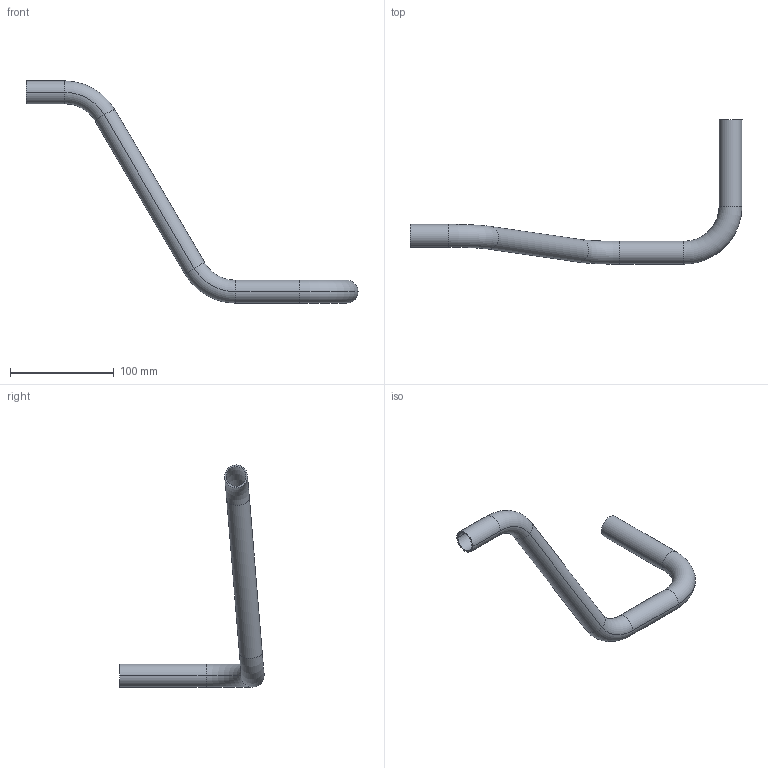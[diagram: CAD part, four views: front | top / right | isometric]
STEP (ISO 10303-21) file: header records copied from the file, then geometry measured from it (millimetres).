
FILE_DESCRIPTION(('CATIA V5 STEP Exchange','CAx-IF Rec.Pracs.--- Model Styling and Organization---1.2---2011-12-15'),'2;1');
FILE_NAME('c:\aplikace\smarteam\Temp\DO584476.step','2016-06-24T11:59:44+00:00',('none'),('none'),'CATIA Version 5 Release 21 SP 6 (IN-10)','CATIA V5 STEP AP214','none');
FILE_SCHEMA(('AUTOMOTIVE_DESIGN { 1 0 10303 214 1 1 1 1 }'));
Length unit declared in the file: millimetre
Products named in the file (1): DO584476, TRUBKA R1T2
Bounding box: 319.75 x 139 x 214 mm (x, y, z)
Volume: 50081.2 mm3; surface area: 66968.1 mm2
Topology: 1 solids, 1 shells, 30 faces, 64 edges, 36 vertices
Faces by surface type: cylinder 16, torus 12, plane 2
Entity records: 723 total; most frequent: ORIENTED_EDGE 128, CARTESIAN_POINT 117, DIRECTION 96, EDGE_CURVE 64, AXIS2_PLACEMENT_3D 61, CIRCLE 44, VERTEX_POINT 36, EDGE_LOOP 32
